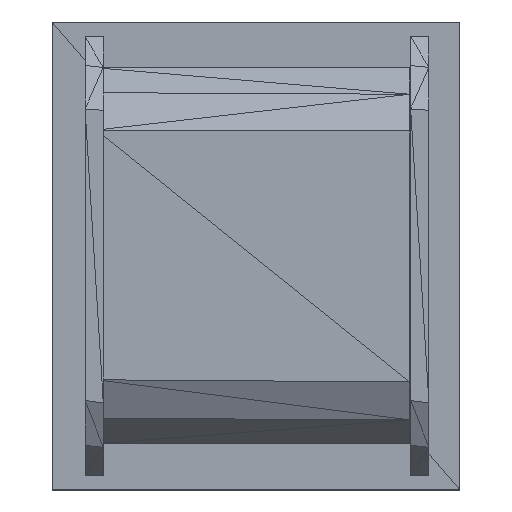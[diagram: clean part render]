
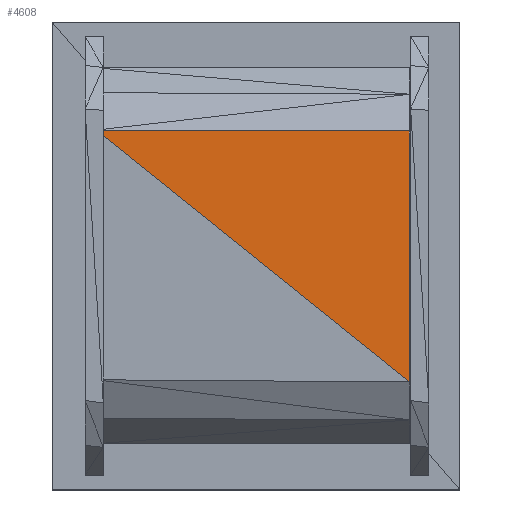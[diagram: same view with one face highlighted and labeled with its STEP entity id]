
A CAD part, top view. The second image highlights one B-rep face of the part: STEP entity #4608.
In plain terms, the highlighted planar face has unit normal (0, 0, 1).
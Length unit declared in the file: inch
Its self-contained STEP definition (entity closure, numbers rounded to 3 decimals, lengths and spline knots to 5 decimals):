
#4362=CARTESIAN_POINT('',(0.45918,0.3732,0.95764));
#4363=VERTEX_POINT('',#4362);
#4385=CARTESIAN_POINT('',(0.45936,-0.37774,0.95732));
#4386=VERTEX_POINT('',#4385);
#4387=CARTESIAN_POINT('',(0.45936,-0.37774,0.95732));
#4388=DIRECTION('',(0.,1.,0.));
#4389=VECTOR('',#4388,0.75094);
#4390=LINE('',#4387,#4389);
#4391=EDGE_CURVE('',#4386,#4363,#4390,.T.);
#4570=CARTESIAN_POINT('',(-0.47831,0.37606,0.95743));
#4571=VERTEX_POINT('',#4570);
#4584=CARTESIAN_POINT('',(0.45936,-0.37774,0.95732));
#4585=DIRECTION('',(-0.779,0.627,0.));
#4586=VECTOR('',#4585,1.2031);
#4587=LINE('',#4584,#4586);
#4588=EDGE_CURVE('',#4386,#4571,#4587,.T.);
#4593=CARTESIAN_POINT('',(-0.47832,0.37606,0.95743));
#4594=DIRECTION('',(0.,0.,1.));
#4595=DIRECTION('',(1.,0.,0.));
#4596=AXIS2_PLACEMENT_3D('',#4593,#4594,#4595);
#4597=PLANE('',#4596);
#4598=ORIENTED_EDGE('',*,*,#4588,.F.);
#4599=ORIENTED_EDGE('',*,*,#4391,.T.);
#4600=CARTESIAN_POINT('',(-0.47832,0.37606,0.95743));
#4601=DIRECTION('',(1.,-0.003,0.));
#4602=VECTOR('',#4601,0.9375);
#4603=LINE('',#4600,#4602);
#4604=EDGE_CURVE('',#4571,#4363,#4603,.T.);
#4605=ORIENTED_EDGE('',*,*,#4604,.F.);
#4606=EDGE_LOOP('',(#4598,#4599,#4605));
#4607=FACE_BOUND('',#4606,.T.);
#4608=ADVANCED_FACE('',(#4607),#4597,.T.);
